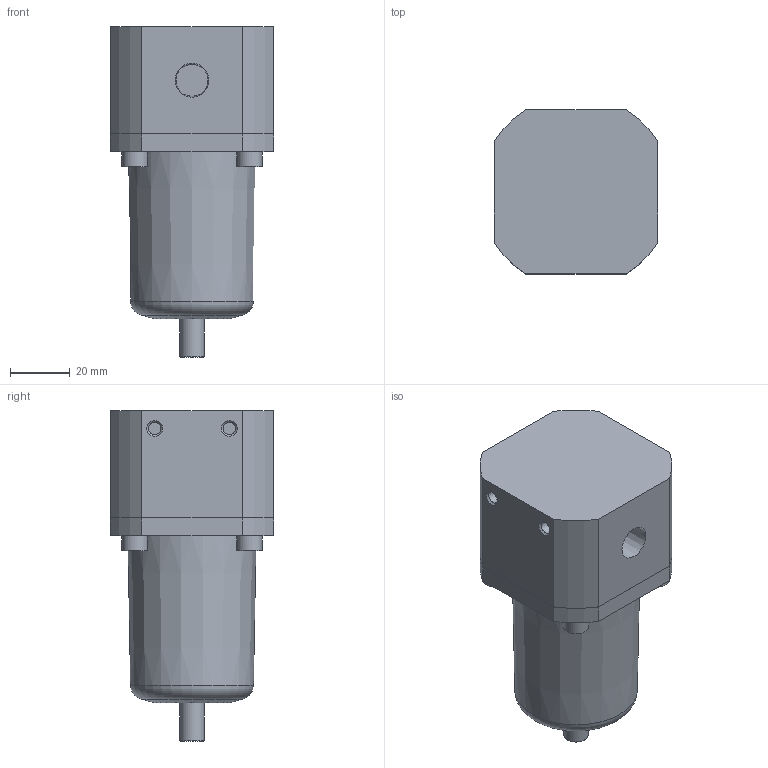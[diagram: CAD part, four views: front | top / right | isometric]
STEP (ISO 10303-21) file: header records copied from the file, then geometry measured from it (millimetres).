
FILE_DESCRIPTION(/* description */ ('FILTRO G1/4 NPT #µm - #'),/* implementation_level */ '2;1');
FILE_NAME(/* name */ 'I:\Area Tecnica\Disegni\VARIE-3D\Componenti\FRL-INOX\SS172\SS172AF# #.step',/* time_stamp */ '2016-04-06T09:50:47+02:00',/* author */ ('M.Valota'),/* organization */ ('Pneumax S.p.A.'),/* preprocessor_version */ 'ST-DEVELOPER v15.2',/* originating_system */ 'Autodesk Inventor 2014',/* authorisation */ '');
FILE_SCHEMA (('AUTOMOTIVE_DESIGN { 1 0 10303 214 3 1 1 }'));
Length unit declared in the file: millimetre
Products named in the file (1): SS172AF# #
Bounding box: 55 x 55 x 111 mm (x, y, z)
Volume: 194599.1 mm3; surface area: 22944.4 mm2
Topology: 1 solids, 1 shells, 82 faces, 178 edges, 117 vertices
Faces by surface type: plane 53, cylinder 19, cone 9, torus 1
Full cylindrical faces by diameter (mm): 4.134 x4, 8.2 x1, 8.5 x4, 10.719 x2
Entity records: 2213 total; most frequent: DIRECTION 372, CARTESIAN_POINT 353, ORIENTED_EDGE 310, EDGE_CURVE 155, AXIS2_PLACEMENT_3D 134, EDGE_LOOP 122, VERTEX_POINT 115, LINE 104
